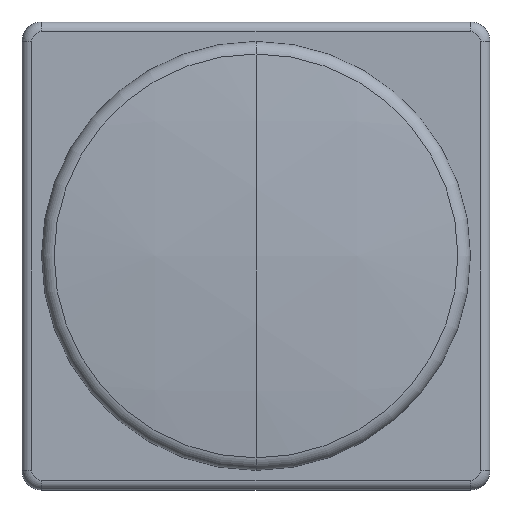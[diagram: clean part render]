
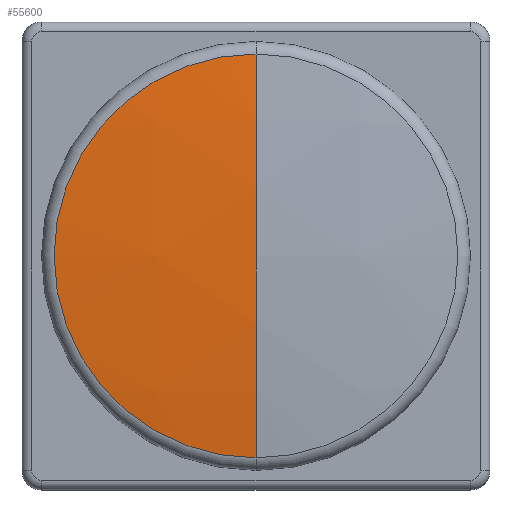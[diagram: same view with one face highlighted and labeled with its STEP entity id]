
A CAD part, top view. The second image highlights one B-rep face of the part: STEP entity #55600.
In plain terms, the highlighted spherical face has radius 260.336 mm.
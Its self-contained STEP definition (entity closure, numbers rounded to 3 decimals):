
#9440 = FACE_OUTER_BOUND ( 'NONE', #59487, .T. ) ;
#9444 = AXIS2_PLACEMENT_3D ( 'NONE', #11428, #11429, #11430 ) ;
#9445 = SPHERICAL_SURFACE ( 'NONE', #9444, 260.336 ) ;
#11428 = CARTESIAN_POINT ( 'NONE',  ( 0., 0., -254.636 ) ) ;
#11429 = DIRECTION ( 'NONE',  ( -1., 0., 0. ) ) ;
#11430 = DIRECTION ( 'NONE',  ( 0., 1., 0. ) ) ;
#11970 = AXIS2_PLACEMENT_3D ( 'NONE', #12710, #12711, #12712 ) ;
#11979 = AXIS2_PLACEMENT_3D ( 'NONE', #12701, #12705, #12706 ) ;
#11981 = AXIS2_PLACEMENT_3D ( 'NONE', #12707, #12708, #12709 ) ;
#12701 = CARTESIAN_POINT ( 'NONE',  ( 0., 0., -254.636 ) ) ;
#12705 = DIRECTION ( 'NONE',  ( -1., 0., 0. ) ) ;
#12706 = DIRECTION ( 'NONE',  ( 0., -1., 0. ) ) ;
#12707 = CARTESIAN_POINT ( 'NONE',  ( 0., 0., 3.84 ) ) ;
#12708 = DIRECTION ( 'NONE',  ( 0., 0., 1. ) ) ;
#12709 = DIRECTION ( 'NONE',  ( 0., 1., 0. ) ) ;
#12710 = CARTESIAN_POINT ( 'NONE',  ( 0., 0., -254.636 ) ) ;
#12711 = DIRECTION ( 'NONE',  ( 1., 0., 0. ) ) ;
#12712 = DIRECTION ( 'NONE',  ( 0., 0., -1. ) ) ;
#36789 = VERTEX_POINT ( 'NONE', #68283 ) ;
#36790 = VERTEX_POINT ( 'NONE', #68285 ) ;
#36803 = VERTEX_POINT ( 'NONE', #68311 ) ;
#55600 = ADVANCED_FACE ( 'NONE', ( #9440 ), #9445, .T. ) ;
#55989 = EDGE_CURVE ( 'NONE', #36790, #36803, #61351, .T. ) ;
#55991 = EDGE_CURVE ( 'NONE', #36789, #36790, #61352, .T. ) ;
#55994 = EDGE_CURVE ( 'NONE', #36789, #36803, #61353, .T. ) ;
#59318 = ORIENTED_EDGE ( 'NONE', *, *, #55991, .T. ) ;
#59319 = ORIENTED_EDGE ( 'NONE', *, *, #55994, .F. ) ;
#59320 = ORIENTED_EDGE ( 'NONE', *, *, #55989, .T. ) ;
#59487 = EDGE_LOOP ( 'NONE', ( #59318, #59320, #59319 ) ) ;
#61351 = CIRCLE ( 'NONE', #11979, 260.336 ) ;
#61352 = CIRCLE ( 'NONE', #11981, 31.067 ) ;
#61353 = CIRCLE ( 'NONE', #11970, 260.336 ) ;
#68283 = CARTESIAN_POINT ( 'NONE',  ( 0., 31.067, 3.84 ) ) ;
#68285 = CARTESIAN_POINT ( 'NONE',  ( 0., -31.067, 3.84 ) ) ;
#68311 = CARTESIAN_POINT ( 'NONE',  ( 0., 0., 5.7 ) ) ;
